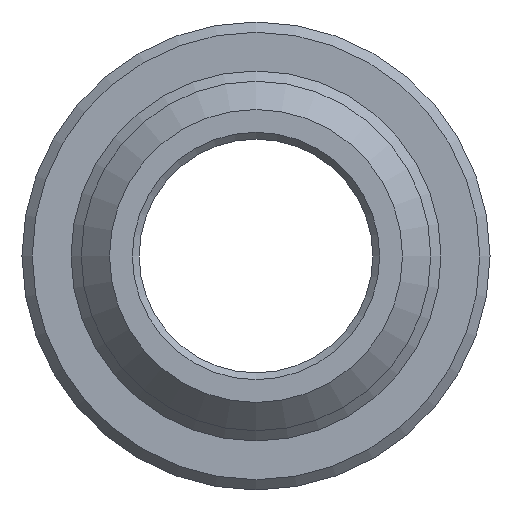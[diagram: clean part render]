
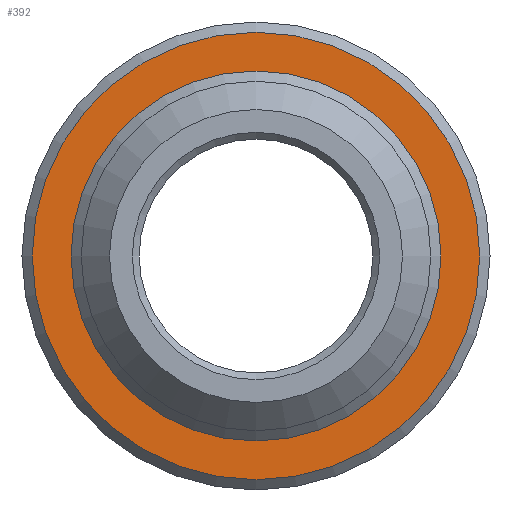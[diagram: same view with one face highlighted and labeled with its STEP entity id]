
A CAD part, front view. The second image highlights one B-rep face of the part: STEP entity #392.
In plain terms, the highlighted planar face has unit normal (0, -1, 0).
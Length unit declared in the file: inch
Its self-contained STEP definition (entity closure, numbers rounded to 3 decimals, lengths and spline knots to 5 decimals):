
#33=FACE_BOUND('',#86,.T.);
#44=PLANE('',#443);
#60=FACE_OUTER_BOUND('',#85,.T.);
#85=EDGE_LOOP('',(#316));
#86=EDGE_LOOP('',(#317));
#158=CIRCLE('',#442,0.27154);
#159=CIRCLE('',#444,0.3285);
#195=VERTEX_POINT('',#678);
#196=VERTEX_POINT('',#682);
#243=EDGE_CURVE('',#195,#195,#158,.T.);
#244=EDGE_CURVE('',#196,#196,#159,.T.);
#316=ORIENTED_EDGE('',*,*,#244,.F.);
#317=ORIENTED_EDGE('',*,*,#243,.F.);
#392=ADVANCED_FACE('',(#60,#33),#44,.T.);
#442=AXIS2_PLACEMENT_3D('',#680,#536,#537);
#443=AXIS2_PLACEMENT_3D('',#681,#538,#539);
#444=AXIS2_PLACEMENT_3D('',#683,#540,#541);
#536=DIRECTION('center_axis',(0.,-1.,0.));
#537=DIRECTION('ref_axis',(0.,0.,-1.));
#538=DIRECTION('center_axis',(0.,-1.,0.));
#539=DIRECTION('ref_axis',(0.,0.,-1.));
#540=DIRECTION('center_axis',(0.,1.,0.));
#541=DIRECTION('ref_axis',(0.,0.,1.));
#678=CARTESIAN_POINT('',(0.,9.,0.27154));
#680=CARTESIAN_POINT('Origin',(0.,9.,0.));
#681=CARTESIAN_POINT('Origin',(0.,9.,-0.27));
#682=CARTESIAN_POINT('',(0.,9.,-0.3285));
#683=CARTESIAN_POINT('Origin',(0.,9.,0.));
